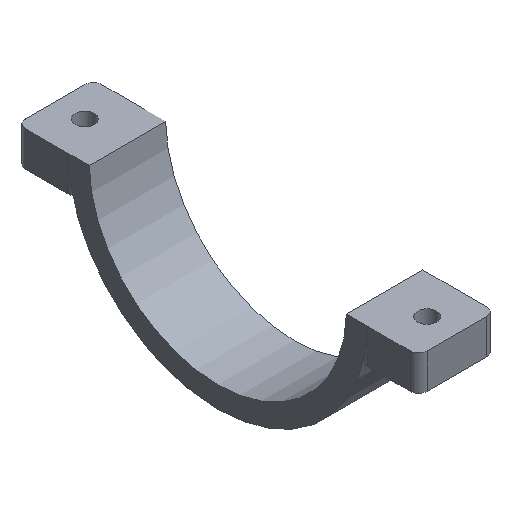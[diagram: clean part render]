
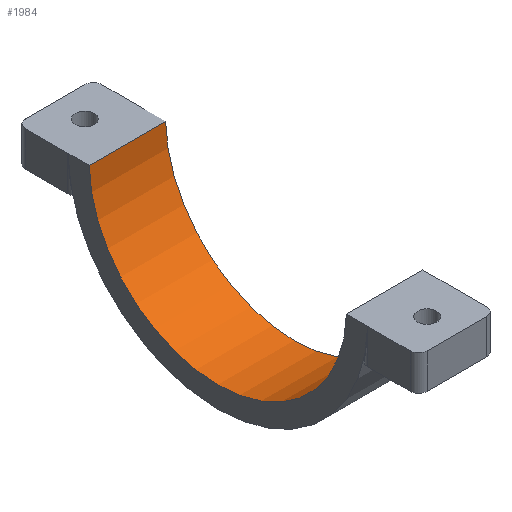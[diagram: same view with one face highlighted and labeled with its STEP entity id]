
A CAD part, isometric view. The second image highlights one B-rep face of the part: STEP entity #1984.
In plain terms, the highlighted cylindrical face has radius 30.3 mm (diameter 60.6 mm), a partial arc.
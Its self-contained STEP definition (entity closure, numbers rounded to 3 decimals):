
#45 = PLANE('',#46);
#46 = AXIS2_PLACEMENT_3D('',#47,#48,#49);
#47 = CARTESIAN_POINT('',(-9.,0.,0.));
#48 = DIRECTION('',(1.,0.,0.));
#49 = DIRECTION('',(-0.,0.,1.));
#72 = PLANE('',#73);
#73 = AXIS2_PLACEMENT_3D('',#74,#75,#76);
#74 = CARTESIAN_POINT('',(-60.,-80.,-0.75));
#75 = DIRECTION('',(0.,0.,1.));
#76 = DIRECTION('',(1.,0.,0.));
#307 = PLANE('',#308);
#308 = AXIS2_PLACEMENT_3D('',#309,#310,#311);
#309 = CARTESIAN_POINT('',(9.,0.,0.));
#310 = DIRECTION('',(1.,0.,0.));
#311 = DIRECTION('',(-0.,0.,1.));
#334 = PLANE('',#335);
#335 = AXIS2_PLACEMENT_3D('',#336,#337,#338);
#336 = CARTESIAN_POINT('',(-60.,-80.,-0.75));
#337 = DIRECTION('',(0.,0.,1.));
#338 = DIRECTION('',(1.,0.,0.));
#554 = VERTEX_POINT('',#555);
#555 = CARTESIAN_POINT('',(-9.,-30.291,-0.75));
#577 = VERTEX_POINT('',#578);
#578 = CARTESIAN_POINT('',(-9.,30.291,-0.75));
#598 = EDGE_CURVE('',#554,#577,#599,.T.);
#599 = SURFACE_CURVE('',#600,(#605,#612),.PCURVE_S1.);
#600 = CIRCLE('',#601,30.3);
#601 = AXIS2_PLACEMENT_3D('',#602,#603,#604);
#602 = CARTESIAN_POINT('',(-9.,0.,0.));
#603 = DIRECTION('',(1.,0.,0.));
#604 = DIRECTION('',(0.,1.,0.));
#605 = PCURVE('',#45,#606);
#606 = DEFINITIONAL_REPRESENTATION('',(#607),#611);
#607 = CIRCLE('',#608,30.3);
#608 = AXIS2_PLACEMENT_2D('',#609,#610);
#609 = CARTESIAN_POINT('',(0.,0.));
#610 = DIRECTION('',(0.,-1.));
#611 = ( GEOMETRIC_REPRESENTATION_CONTEXT(2) 
PARAMETRIC_REPRESENTATION_CONTEXT() REPRESENTATION_CONTEXT('2D SPACE',''
  ) );
#612 = PCURVE('',#613,#618);
#613 = CYLINDRICAL_SURFACE('',#614,30.3);
#614 = AXIS2_PLACEMENT_3D('',#615,#616,#617);
#615 = CARTESIAN_POINT('',(-9.,0.,0.));
#616 = DIRECTION('',(-1.,-0.,-0.));
#617 = DIRECTION('',(0.,1.,0.));
#618 = DEFINITIONAL_REPRESENTATION('',(#619),#623);
#619 = LINE('',#620,#621);
#620 = CARTESIAN_POINT('',(-0.,0.));
#621 = VECTOR('',#622,1.);
#622 = DIRECTION('',(-1.,0.));
#623 = ( GEOMETRIC_REPRESENTATION_CONTEXT(2) 
PARAMETRIC_REPRESENTATION_CONTEXT() REPRESENTATION_CONTEXT('2D SPACE',''
  ) );
#629 = VERTEX_POINT('',#630);
#630 = CARTESIAN_POINT('',(9.,30.291,-0.75));
#849 = EDGE_CURVE('',#629,#577,#850,.T.);
#850 = SURFACE_CURVE('',#851,(#855,#862),.PCURVE_S1.);
#851 = LINE('',#852,#853);
#852 = CARTESIAN_POINT('',(-9.,30.291,-0.75));
#853 = VECTOR('',#854,1.);
#854 = DIRECTION('',(-1.,-0.,-0.));
#855 = PCURVE('',#334,#856);
#856 = DEFINITIONAL_REPRESENTATION('',(#857),#861);
#857 = LINE('',#858,#859);
#858 = CARTESIAN_POINT('',(51.,110.291));
#859 = VECTOR('',#860,1.);
#860 = DIRECTION('',(-1.,0.));
#861 = ( GEOMETRIC_REPRESENTATION_CONTEXT(2) 
PARAMETRIC_REPRESENTATION_CONTEXT() REPRESENTATION_CONTEXT('2D SPACE',''
  ) );
#862 = PCURVE('',#613,#863);
#863 = DEFINITIONAL_REPRESENTATION('',(#864),#867);
#864 = B_SPLINE_CURVE_WITH_KNOTS('',1,(#865,#866),.UNSPECIFIED.,.F.,.F.,
  (2,2),(-18.,0.),.PIECEWISE_BEZIER_KNOTS.);
#865 = CARTESIAN_POINT('',(-6.258,-18.));
#866 = CARTESIAN_POINT('',(-6.258,0.));
#867 = ( GEOMETRIC_REPRESENTATION_CONTEXT(2) 
PARAMETRIC_REPRESENTATION_CONTEXT() REPRESENTATION_CONTEXT('2D SPACE',''
  ) );
#1295 = VERTEX_POINT('',#1296);
#1296 = CARTESIAN_POINT('',(9.,-30.291,-0.75));
#1318 = EDGE_CURVE('',#1295,#629,#1319,.T.);
#1319 = SURFACE_CURVE('',#1320,(#1325,#1332),.PCURVE_S1.);
#1320 = CIRCLE('',#1321,30.3);
#1321 = AXIS2_PLACEMENT_3D('',#1322,#1323,#1324);
#1322 = CARTESIAN_POINT('',(9.,0.,0.));
#1323 = DIRECTION('',(1.,0.,0.));
#1324 = DIRECTION('',(0.,1.,0.));
#1325 = PCURVE('',#307,#1326);
#1326 = DEFINITIONAL_REPRESENTATION('',(#1327),#1331);
#1327 = CIRCLE('',#1328,30.3);
#1328 = AXIS2_PLACEMENT_2D('',#1329,#1330);
#1329 = CARTESIAN_POINT('',(0.,0.));
#1330 = DIRECTION('',(0.,-1.));
#1331 = ( GEOMETRIC_REPRESENTATION_CONTEXT(2) 
PARAMETRIC_REPRESENTATION_CONTEXT() REPRESENTATION_CONTEXT('2D SPACE',''
  ) );
#1332 = PCURVE('',#613,#1333);
#1333 = DEFINITIONAL_REPRESENTATION('',(#1334),#1338);
#1334 = LINE('',#1335,#1336);
#1335 = CARTESIAN_POINT('',(-0.,-18.));
#1336 = VECTOR('',#1337,1.);
#1337 = DIRECTION('',(-1.,0.));
#1338 = ( GEOMETRIC_REPRESENTATION_CONTEXT(2) 
PARAMETRIC_REPRESENTATION_CONTEXT() REPRESENTATION_CONTEXT('2D SPACE',''
  ) );
#1345 = EDGE_CURVE('',#1295,#554,#1346,.T.);
#1346 = SURFACE_CURVE('',#1347,(#1351,#1358),.PCURVE_S1.);
#1347 = LINE('',#1348,#1349);
#1348 = CARTESIAN_POINT('',(-9.,-30.291,-0.75));
#1349 = VECTOR('',#1350,1.);
#1350 = DIRECTION('',(-1.,-0.,-0.));
#1351 = PCURVE('',#72,#1352);
#1352 = DEFINITIONAL_REPRESENTATION('',(#1353),#1357);
#1353 = LINE('',#1354,#1355);
#1354 = CARTESIAN_POINT('',(51.,49.709));
#1355 = VECTOR('',#1356,1.);
#1356 = DIRECTION('',(-1.,0.));
#1357 = ( GEOMETRIC_REPRESENTATION_CONTEXT(2) 
PARAMETRIC_REPRESENTATION_CONTEXT() REPRESENTATION_CONTEXT('2D SPACE',''
  ) );
#1358 = PCURVE('',#613,#1359);
#1359 = DEFINITIONAL_REPRESENTATION('',(#1360),#1363);
#1360 = B_SPLINE_CURVE_WITH_KNOTS('',1,(#1361,#1362),.UNSPECIFIED.,.F.,
  .F.,(2,2),(-18.,0.),.PIECEWISE_BEZIER_KNOTS.);
#1361 = CARTESIAN_POINT('',(-3.166,-18.));
#1362 = CARTESIAN_POINT('',(-3.166,0.));
#1363 = ( GEOMETRIC_REPRESENTATION_CONTEXT(2) 
PARAMETRIC_REPRESENTATION_CONTEXT() REPRESENTATION_CONTEXT('2D SPACE',''
  ) );
#1984 = ADVANCED_FACE('',(#1985),#613,.F.);
#1985 = FACE_BOUND('',#1986,.T.);
#1986 = EDGE_LOOP('',(#1987,#1988,#1989,#1990));
#1987 = ORIENTED_EDGE('',*,*,#598,.F.);
#1988 = ORIENTED_EDGE('',*,*,#1345,.F.);
#1989 = ORIENTED_EDGE('',*,*,#1318,.T.);
#1990 = ORIENTED_EDGE('',*,*,#849,.T.);
